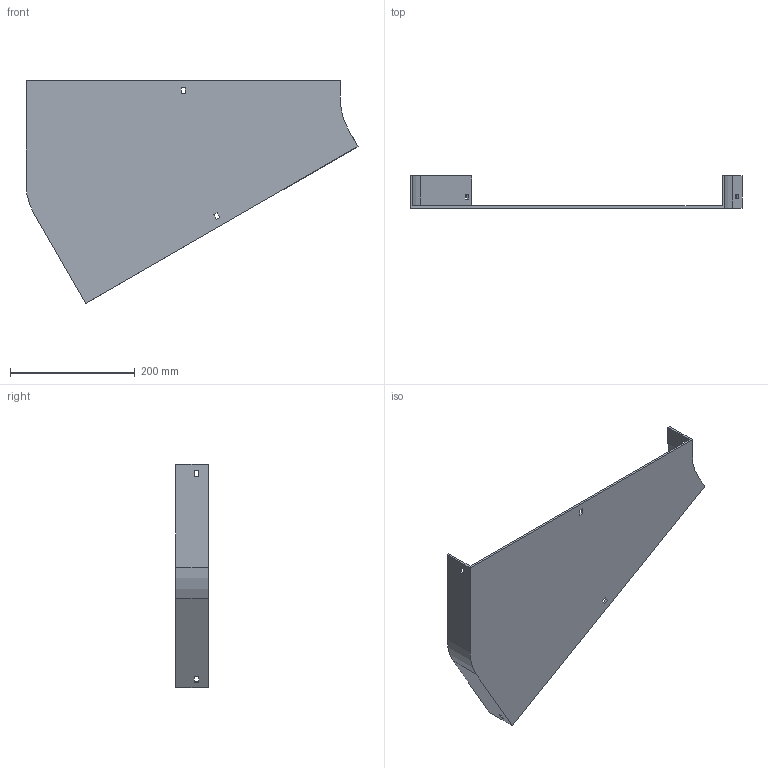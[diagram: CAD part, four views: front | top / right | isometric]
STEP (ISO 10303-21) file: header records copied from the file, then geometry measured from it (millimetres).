
FILE_DESCRIPTION (( 'STEP AP214' ), '1' );
FILE_NAME ('12F1B500.step', '2025-02-21T12:54:17', ( '' ), ( '' ), 'SwSTEP 2.0', 'SolidWorks 2023', '' );
FILE_SCHEMA (( 'AUTOMOTIVE_DESIGN' ));
Length unit declared in the file: millimetre
Products named in the file (1): 12F1B500
Bounding box: 532.4 x 52 x 357.98 mm (x, y, z)
Volume: 521199.2 mm3; surface area: 304460 mm2
Topology: 1 solids, 1 shells, 42 faces, 120 edges, 80 vertices
Faces by surface type: plane 38, cylinder 4
Entity records: 1399 total; most frequent: CARTESIAN_POINT 243, ORIENTED_EDGE 240, DIRECTION 214, EDGE_CURVE 120, VECTOR 112, LINE 112, VERTEX_POINT 80, EDGE_LOOP 54
